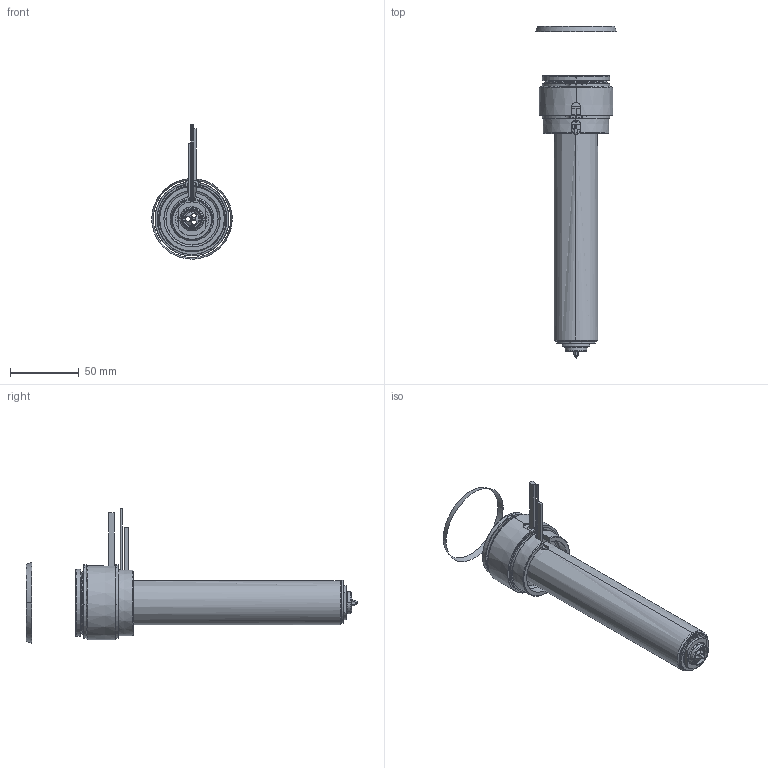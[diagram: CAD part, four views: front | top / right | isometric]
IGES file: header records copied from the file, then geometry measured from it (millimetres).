
Start section: SolidWorks IGES file using analytic representation for surfaces
Global section: file name: C:\Documents and Settings\ws-20\Desktop\TEM\UGEP5504-S-A-1 [Øf-1.36 ØC-12].IGS; native system: SolidWorks 2012; preprocessor: SolidWorks 2012; author: ws-20; date: 120427.080507; units: millimetre
Bounding box: 58.79 x 242.24 x 98.01 mm (x, y, z)
Surface area: 85229.6 mm2 (no closed solid volume)
Topology: 0 solids, 0 shells, 177 faces, 3572 edges, 3572 vertices
Faces by surface type: revolution 115, bspline 62
